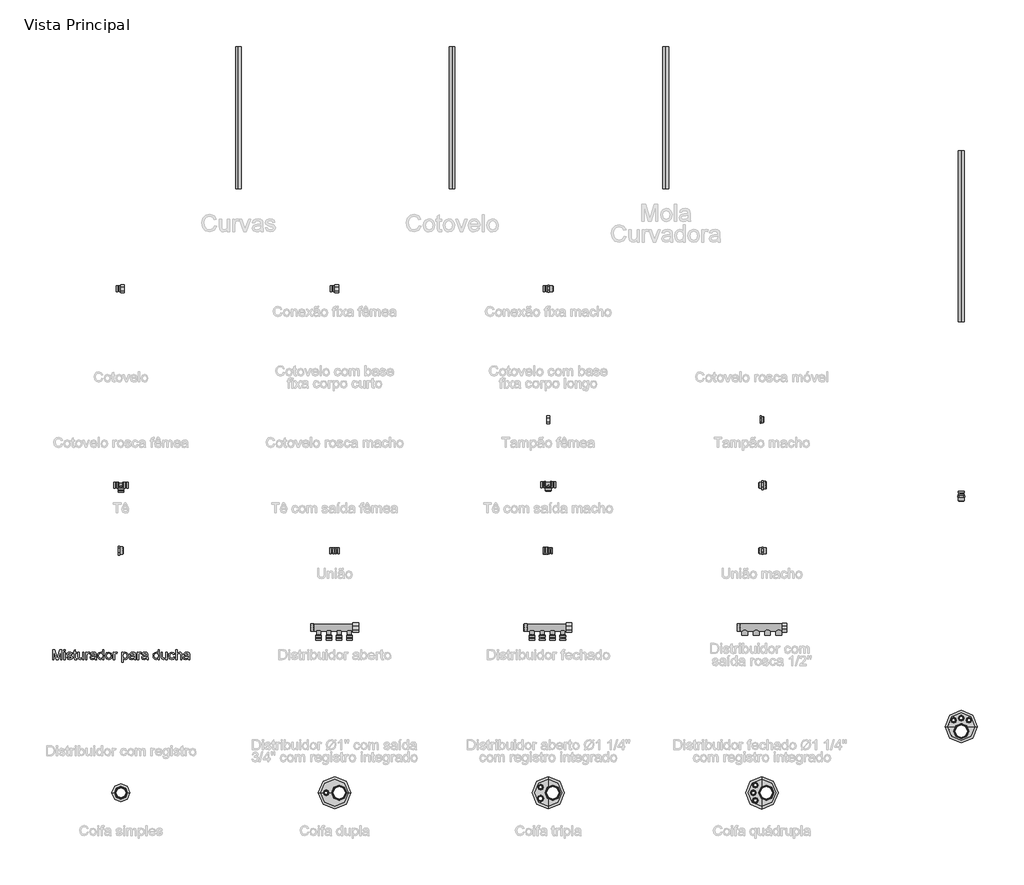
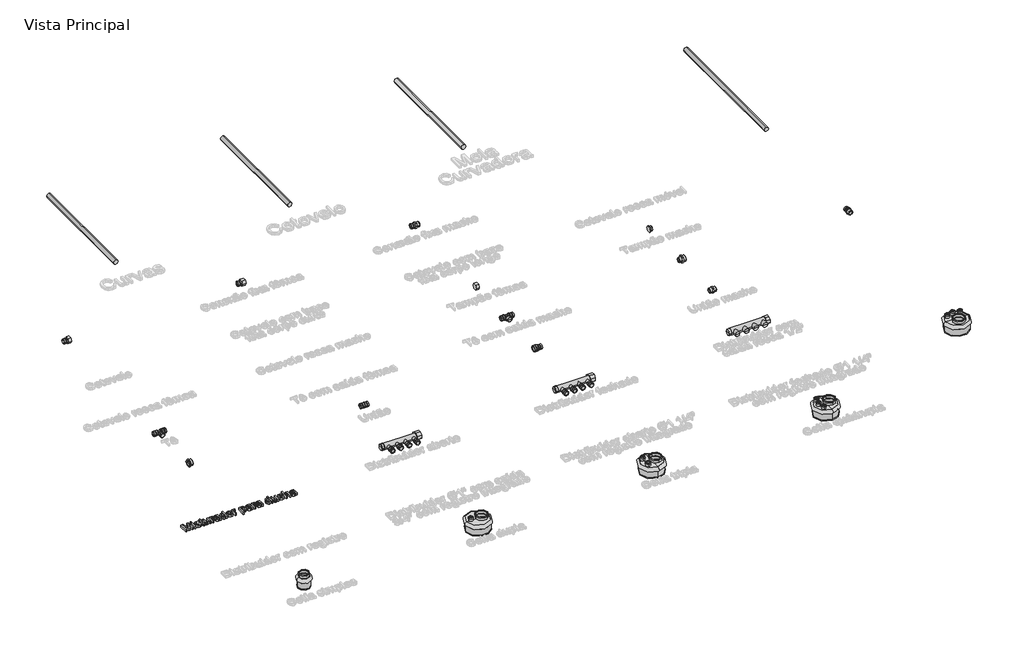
# One storey, part 1 of 12: 16 pipe fittings, 5 valves, 4 pipe segments, 1 proxy.
"""IFC4 building model written with IfcOpenShell, lengths in millimetres."""

from ifc_helpers import new_model, si_unit, point, frame, frame_2d, origin, origin_with_axes, place, context, project, spatial, polyline, circle_curve, trimmed, segment, composite_curve, outline, extrude, transform, mapped, element, save
from components import pipe_fitting_5259ab72, pipe_fitting_8e967877, pipe_fitting_f7807440, pipe_fitting_d305088d, pipe_fitting_e5ea418e, pipe_fitting_7b5d8ced, pipe_fitting_8c4c539a, pipe_fitting_f05f0313, pipe_fitting_5bf43b76, pipe_fitting_acc86c9e, pipe_fitting_7faf6eb1, pipe_fitting_00310f9c, pipe_fitting_6ace6138, pipe_fitting_a693b1bf, pipe_fitting_cd5acd92, valve_a015ffae, valve_1405c498, valve_129e3b03, valve_a71acad6

model = new_model("IFC4")

# Units and contexts
model_context = context("Model", 3, world=origin())
ifc_project = project(units=[si_unit("LENGTHUNIT", "METRE", prefix="MILLI")], contexts=[model_context])

# Site, building, storey
site = spatial("IfcSite", under=ifc_project)
building = spatial("IfcBuilding", under=site)
storey = spatial("IfcBuildingStorey", under=building, Name="Vista Principal", Elevation=0.0)

# Proxy
placement = place(None, origin())
element("IfcBuildingElementProxy", 1, Name="Legenda", ObjectType="Legenda", at=placement, inside=storey, context=model_context, shape_type="SweptSolid", body=[
    extrude(outline(polyline([(-1320.6631168, -1231.7668427), (-1320.6631168, -1196.6071341), (-1313.1006892, -1196.6071341), (-1305.9073699, -1221.3888916), (-1304.4566886, -1226.5649913), (-1302.8858325, -1220.9596959), (-1295.812688, -1196.6071341), (-1288.2502604, -1196.6071341), (-1288.2502604, -1231.7668427), (-1292.645224, -1231.7668427), (-1292.645224, -1201.0020977), (-1301.4780707, -1231.7668427), (-1307.4353065, -1231.7668427), (-1316.2681532, -1201.0020977), (-1316.2681532, -1231.7668427), (-1320.6631168, -1231.7668427)])), origin_with_axes(), (0.0, 0.0, 1.0), 10.0),
    extrude(outline(polyline([(-1281.1084446, -1231.7668427), (-1281.1084446, -1205.9464317), (-1276.7134811, -1205.9464317), (-1276.7134811, -1231.7668427), (-1281.1084446, -1231.7668427)])), origin_with_axes(), (0.0, 0.0, 1.0), 10.0),
    extrude(outline(polyline([(-1281.1084446, -1201.0020977), (-1281.1084446, -1196.6071341), (-1276.7134811, -1196.6071341), (-1276.7134811, -1201.0020977), (-1281.1084446, -1201.0020977)])), origin_with_axes(), (0.0, 0.0, 1.0), 10.0),
    extrude(outline(polyline([(-1271.769147, -1224.0756564), (-1267.3741835, -1223.526286), (-1265.339796, -1226.788173), (-1260.6787312, -1227.9212496), (-1256.1979285, -1226.8825961), (-1254.7386632, -1224.4447647), (-1256.2065124, -1222.4704647), (-1260.7302346, -1221.2172133), (-1267.3484317, -1219.0669431), (-1270.2369185, -1216.5561485), (-1271.2197766, -1213.0109923), (-1270.4300566, -1209.7362294), (-1268.2754944, -1207.2340187), (-1265.4814306, -1205.9335558), (-1261.7002168, -1205.3970613), (-1256.3524389, -1206.2597445), (-1252.9532093, -1208.5945689), (-1251.4424405, -1212.5388771), (-1255.8374041, -1213.0882475), (-1257.4898074, -1210.663292), (-1261.3568603, -1209.7920248), (-1265.5629778, -1210.6246644), (-1266.824813, -1212.5646288), (-1264.6616669, -1214.8136141), (-1260.8761612, -1215.7492606), (-1254.4253504, -1217.8179837), (-1251.4295647, -1220.161392), (-1250.3436996, -1223.9812334), (-1251.6184108, -1228.1873509), (-1255.2966176, -1231.238932), (-1260.7388186, -1232.3162131), (-1268.4042531, -1230.2389061), (-1271.769147, -1224.0756564)])), origin_with_axes(), (0.0, 0.0, 1.0), 10.0),
    extrude(outline(polyline([(-1236.060068, -1228.1015117), (-1235.5106976, -1231.8956014), (-1238.7983364, -1232.3162131), (-1242.4808351, -1231.5865805), (-1244.3177926, -1229.6723679), (-1244.8499952, -1224.6851143), (-1244.8499952, -1210.3413953), (-1248.1462179, -1210.3413953), (-1248.1462179, -1205.9464317), (-1244.8499952, -1205.9464317), (-1244.8499952, -1199.6715911), (-1240.4550316, -1197.0878333), (-1240.4550316, -1205.9464317), (-1236.060068, -1205.9464317), (-1236.060068, -1210.3413953), (-1240.4550316, -1210.3413953), (-1240.4550316, -1224.5563556), (-1240.223266, -1226.8225087), (-1236.060068, -1228.1015117)])), origin_with_axes(), (0.0, 0.0, 1.0), 10.0),
    extrude(outline(polyline([(-1215.1839911, -1231.7668427), (-1215.1839911, -1227.3289595), (-1223.1155269, -1232.3162131), (-1227.2486811, -1231.440654), (-1230.0985403, -1229.2431722), (-1231.4075871, -1226.0070369), (-1231.6651045, -1221.9210942), (-1231.6651045, -1205.9464317), (-1227.2701409, -1205.9464317), (-1227.2701409, -1219.8523711), (-1227.0040396, -1224.3331738), (-1225.2657972, -1226.9641432), (-1221.9910343, -1227.9212496), (-1218.3214114, -1226.9426835), (-1215.8964559, -1224.2773784), (-1215.1839911, -1219.3802559), (-1215.1839911, -1205.9464317), (-1210.7890275, -1205.9464317), (-1210.7890275, -1231.7668427), (-1215.1839911, -1231.7668427)])), origin_with_axes(), (0.0, 0.0, 1.0), 10.0),
    extrude(outline(polyline([(-1204.7459526, -1231.7668427), (-1204.7459526, -1205.9464317), (-1200.9003595, -1205.9464317), (-1200.9003595, -1209.7662731), (-1198.1706751, -1206.2468687), (-1195.4238229, -1205.3970613), (-1191.0116915, -1206.7533196), (-1192.4795406, -1210.6933357), (-1195.5697494, -1209.7920248), (-1198.0547923, -1210.6590001), (-1199.6385243, -1213.0624958), (-1200.3509891, -1218.1956759), (-1200.3509891, -1231.7668427), (-1204.7459526, -1231.7668427)])), origin_with_axes(), (0.0, 0.0, 1.0), 10.0),
    extrude(outline(polyline([(-1171.7837259, -1228.47062), (-1176.0456388, -1231.4492379), (-1180.7539152, -1232.3162131), (-1187.1360546, -1230.2303222), (-1189.3635801, -1224.8997121), (-1188.5223566, -1221.4232273), (-1186.311999, -1218.8995568), (-1183.2346661, -1217.4574593), (-1179.4319925, -1216.796498), (-1171.8094776, -1215.2857293), (-1172.9940576, -1211.062444), (-1177.8525525, -1209.7920248), (-1182.2990195, -1210.6375403), (-1184.4192461, -1213.637618), (-1188.8142097, -1213.0882475), (-1186.9128729, -1208.7962909), (-1183.0844476, -1206.2812043), (-1177.2860142, -1205.3970613), (-1171.9596961, -1206.1781974), (-1168.9510345, -1208.1396215), (-1167.6033601, -1211.1225314), (-1167.3887623, -1214.9681245), (-1167.3887623, -1220.4360772), (-1167.1655805, -1228.071468), (-1166.2900214, -1231.7668427), (-1170.684985, -1231.7668427), (-1171.7837259, -1228.47062)]), holes=[polyline([(-1171.7966017, -1220.3030266), (-1178.8740382, -1221.0283672), (-1182.6552519, -1221.740832), (-1184.3677426, -1222.8996603), (-1184.9686166, -1224.5906912), (-1183.6595698, -1226.9684352), (-1179.8182686, -1227.9212496), (-1175.3718016, -1226.8697202), (-1172.5047746, -1224.3245899), (-1171.7966017, -1220.3030266)])]), origin_with_axes(), (0.0, 0.0, 1.0), 10.0),
    extrude(outline(polyline([(-1145.4139444, -1231.7668427), (-1145.4139444, -1227.6208126), (-1152.3411624, -1232.3162131), (-1157.7833634, -1230.6165983), (-1161.6289565, -1225.8739863), (-1162.9937987, -1218.8823889), (-1161.7362554, -1211.8864997), (-1157.9679175, -1207.0709243), (-1152.3583302, -1205.3970613), (-1148.3067232, -1206.5945172), (-1145.4139444, -1209.7061857), (-1145.4139444, -1196.6071341), (-1141.0189809, -1196.6071341), (-1141.0189809, -1231.7668427), (-1145.4139444, -1231.7668427)]), holes=[polyline([(-1158.5988351, -1218.8652211), (-1156.6159512, -1225.6679723), (-1151.9377185, -1227.9212496), (-1147.3152812, -1225.7709793), (-1145.4139444, -1219.1999937), (-1147.3496169, -1212.0667618), (-1152.1179807, -1209.7920248), (-1156.7447099, -1211.9766308), (-1158.5988351, -1218.8652211)])]), origin_with_axes(), (0.0, 0.0, 1.0), 10.0),
    extrude(outline(polyline([(-1135.5252764, -1218.8566372), (-1131.7226028, -1208.2555044), (-1123.9799131, -1205.3970613), (-1115.6749771, -1208.8778381), (-1112.4517177, -1218.4961128), (-1113.8766473, -1226.3160578), (-1118.0269693, -1230.7410651), (-1123.9799131, -1232.3162131), (-1132.3363526, -1228.8483122), (-1135.5252764, -1218.8566372)]), holes=[polyline([(-1131.1303128, -1218.8480533), (-1129.0959254, -1225.6593884), (-1123.9799131, -1227.9212496), (-1118.8810687, -1225.6465126), (-1116.8466812, -1218.7107107), (-1118.8939445, -1212.053886), (-1123.9799131, -1209.7920248), (-1129.0959254, -1212.0453021), (-1131.1303128, -1218.8480533)])]), origin_with_axes(), (0.0, 0.0, 1.0), 10.0),
    extrude(outline(polyline([(-1107.5073837, -1231.7668427), (-1107.5073837, -1205.9464317), (-1103.6617905, -1205.9464317), (-1103.6617905, -1209.7662731), (-1100.9321061, -1206.2468687), (-1098.1852539, -1205.3970613), (-1093.7731225, -1206.7533196), (-1095.2409717, -1210.6933357), (-1098.3311804, -1209.7920248), (-1100.8162233, -1210.6590001), (-1102.3999553, -1213.0624958), (-1103.1124201, -1218.1956759), (-1103.1124201, -1231.7668427), (-1107.5073837, -1231.7668427)])), origin_with_axes(), (0.0, 0.0, 1.0), 10.0),
    extrude(outline(polyline([(-1077.2920091, -1241.6555107), (-1077.2920091, -1205.9464317), (-1072.8970455, -1205.9464317), (-1072.8970455, -1210.2555562), (-1069.8583403, -1206.611685), (-1065.7552297, -1205.3970613), (-1060.1842701, -1207.0966761), (-1056.5446909, -1211.8864997), (-1055.3171913, -1218.6592072), (-1056.7034933, -1225.7795632), (-1060.7293486, -1230.6294742), (-1066.2874324, -1232.3162131), (-1070.1115657, -1231.1874285), (-1072.8970455, -1228.3332774), (-1072.8970455, -1241.6555107), (-1077.2920091, -1241.6555107)]), holes=[polyline([(-1072.8970455, -1219.0626511), (-1070.9957088, -1225.7581034), (-1066.3818554, -1227.9212496), (-1061.673579, -1225.6808482), (-1059.7121548, -1218.7364624), (-1061.6263675, -1212.0238423), (-1066.2015932, -1209.7920248), (-1070.8669501, -1212.1654768), (-1072.8970455, -1219.0626511)])]), origin_with_axes(), (0.0, 0.0, 1.0), 10.0),
    extrude(outline(polyline([(-1033.8917439, -1228.47062), (-1038.1536568, -1231.4492379), (-1042.8619332, -1232.3162131), (-1049.2440727, -1230.2303222), (-1051.4715981, -1224.8997121), (-1050.6303747, -1221.4232273), (-1048.420017, -1218.8995568), (-1045.3426841, -1217.4574593), (-1041.5400106, -1216.796498), (-1033.9174956, -1215.2857293), (-1035.1020756, -1211.062444), (-1039.9605705, -1209.7920248), (-1044.4070376, -1210.6375403), (-1046.5272641, -1213.637618), (-1050.9222277, -1213.0882475), (-1049.0208909, -1208.7962909), (-1045.1924656, -1206.2812043), (-1039.3940322, -1205.3970613), (-1034.0677141, -1206.1781974), (-1031.0590525, -1208.1396215), (-1029.7113781, -1211.1225314), (-1029.4967803, -1214.9681245), (-1029.4967803, -1220.4360772), (-1029.2735986, -1228.071468), (-1028.3980394, -1231.7668427), (-1032.793003, -1231.7668427), (-1033.8917439, -1228.47062)]), holes=[polyline([(-1033.9046197, -1220.3030266), (-1040.9820562, -1221.0283672), (-1044.76327, -1221.740832), (-1046.4757607, -1222.8996603), (-1047.0766346, -1224.5906912), (-1045.7675878, -1226.9684352), (-1041.9262866, -1227.9212496), (-1037.4798196, -1226.8697202), (-1034.6127926, -1224.3245899), (-1033.9046197, -1220.3030266)])]), origin_with_axes(), (0.0, 0.0, 1.0), 10.0),
    extrude(outline(polyline([(-1023.4537054, -1231.7668427), (-1023.4537054, -1205.9464317), (-1019.6081123, -1205.9464317), (-1019.6081123, -1209.7662731), (-1016.8784279, -1206.2468687), (-1014.1315756, -1205.3970613), (-1009.7194442, -1206.7533196), (-1011.1872934, -1210.6933357), (-1014.2775022, -1209.7920248), (-1016.762545, -1210.6590001), (-1018.346277, -1213.0624958), (-1019.0587418, -1218.1956759), (-1019.0587418, -1231.7668427), (-1023.4537054, -1231.7668427)])), origin_with_axes(), (0.0, 0.0, 1.0), 10.0),
    extrude(outline(polyline([(-990.4914786, -1228.47062), (-994.7533915, -1231.4492379), (-999.4616679, -1232.3162131), (-1005.8438074, -1230.2303222), (-1008.0713329, -1224.8997121), (-1007.2301094, -1221.4232273), (-1005.0197518, -1218.8995568), (-1001.9424189, -1217.4574593), (-998.1397453, -1216.796498), (-990.5172304, -1215.2857293), (-991.7018104, -1211.062444), (-996.5603053, -1209.7920248), (-1001.0067723, -1210.6375403), (-1003.1269989, -1213.637618), (-1007.5219625, -1213.0882475), (-1005.6206257, -1208.7962909), (-1001.7922004, -1206.2812043), (-995.993767, -1205.3970613), (-990.6674488, -1206.1781974), (-987.6587873, -1208.1396215), (-986.3111129, -1211.1225314), (-986.0965151, -1214.9681245), (-986.0965151, -1220.4360772), (-985.8733333, -1228.071468), (-984.9977742, -1231.7668427), (-989.3927377, -1231.7668427), (-990.4914786, -1228.47062)]), holes=[polyline([(-990.5043545, -1220.3030266), (-997.5817909, -1221.0283672), (-1001.3630047, -1221.740832), (-1003.0754954, -1222.8996603), (-1003.6763693, -1224.5906912), (-1002.3673226, -1226.9684352), (-998.5260214, -1227.9212496), (-994.0795544, -1226.8697202), (-991.2125273, -1224.3245899), (-990.5043545, -1220.3030266)])]), origin_with_axes(), (0.0, 0.0, 1.0), 10.0),
    extrude(outline(polyline([(-950.3874361, -1231.7668427), (-950.3874361, -1227.6208126), (-957.314654, -1232.3162131), (-962.756855, -1230.6165983), (-966.6024481, -1225.8739863), (-967.9672903, -1218.8823889), (-966.7097471, -1211.8864997), (-962.9414091, -1207.0709243), (-957.3318219, -1205.3970613), (-953.2802148, -1206.5945172), (-950.3874361, -1209.7061857), (-950.3874361, -1196.6071341), (-945.9924725, -1196.6071341), (-945.9924725, -1231.7668427), (-950.3874361, -1231.7668427)]), holes=[polyline([(-963.5723268, -1218.8652211), (-961.5894428, -1225.6679723), (-956.9112101, -1227.9212496), (-952.2887728, -1225.7709793), (-950.3874361, -1219.1999937), (-952.3231085, -1212.0667618), (-957.0914723, -1209.7920248), (-961.7182015, -1211.9766308), (-963.5723268, -1218.8652211)])]), origin_with_axes(), (0.0, 0.0, 1.0), 10.0),
    extrude(outline(polyline([(-922.9189138, -1231.7668427), (-922.9189138, -1227.3289595), (-930.8504496, -1232.3162131), (-934.9836038, -1231.440654), (-937.833463, -1229.2431722), (-939.1425097, -1226.0070369), (-939.4000271, -1221.9210942), (-939.4000271, -1205.9464317), (-935.0050636, -1205.9464317), (-935.0050636, -1219.8523711), (-934.7389623, -1224.3331738), (-933.0007198, -1226.9641432), (-929.7259569, -1227.9212496), (-926.056334, -1226.9426835), (-923.6313786, -1224.2773784), (-922.9189138, -1219.3802559), (-922.9189138, -1205.9464317), (-918.5239502, -1205.9464317), (-918.5239502, -1231.7668427), (-922.9189138, -1231.7668427)])), origin_with_axes(), (0.0, 0.0, 1.0), 10.0),
    extrude(outline(polyline([(-895.9997619, -1222.4275451), (-891.6047983, -1222.9769155), (-895.1327867, -1229.8397542), (-902.1029242, -1232.3162131), (-910.433612, -1228.8611881), (-913.5796162, -1218.9510602), (-912.2362338, -1211.650442), (-908.1417071, -1206.9593335), (-902.1630116, -1205.3970613), (-895.4804351, -1207.5430396), (-892.1541688, -1213.637618), (-896.5491323, -1214.1869884), (-898.5878117, -1210.8950577), (-902.1286759, -1209.7920248), (-907.2232284, -1211.9637549), (-909.1846526, -1218.8308855), (-907.266148, -1225.7623954), (-902.2488507, -1227.9212496), (-898.1071126, -1226.5735752), (-895.9997619, -1222.4275451)])), origin_with_axes(), (0.0, 0.0, 1.0), 10.0),
    extrude(outline(polyline([(-887.7592052, -1231.7668427), (-887.7592052, -1196.6071341), (-883.3642416, -1196.6071341), (-883.3642416, -1209.5345074), (-875.715975, -1205.3970613), (-870.7802249, -1206.5258459), (-867.7844391, -1209.6460983), (-866.8831282, -1215.4230719), (-866.8831282, -1231.7668427), (-871.2780918, -1231.7668427), (-871.2780918, -1215.8780193), (-872.6772697, -1211.2427062), (-876.6430376, -1209.7920248), (-880.2439892, -1210.7705909), (-882.6474849, -1213.4230201), (-883.3642416, -1218.0497494), (-883.3642416, -1231.7668427), (-887.7592052, -1231.7668427)])), origin_with_axes(), (0.0, 0.0, 1.0), 10.0),
    extrude(outline(polyline([(-844.35894, -1228.47062), (-848.6208529, -1231.4492379), (-853.3291293, -1232.3162131), (-859.7112688, -1230.2303222), (-861.9387942, -1224.8997121), (-861.0975707, -1221.4232273), (-858.8872131, -1218.8995568), (-855.8098802, -1217.4574593), (-852.0072066, -1216.796498), (-844.3846917, -1215.2857293), (-845.5692717, -1211.062444), (-850.4277666, -1209.7920248), (-854.8742337, -1210.6375403), (-856.9944602, -1213.637618), (-861.3894238, -1213.0882475), (-859.488087, -1208.7962909), (-855.6596617, -1206.2812043), (-849.8612283, -1205.3970613), (-844.5349102, -1206.1781974), (-841.5262486, -1208.1396215), (-840.1785742, -1211.1225314), (-839.9639764, -1214.9681245), (-839.9639764, -1220.4360772), (-839.7407946, -1228.071468), (-838.8652355, -1231.7668427), (-843.2601991, -1231.7668427), (-844.35894, -1228.47062)]), holes=[polyline([(-844.3718158, -1220.3030266), (-851.4492523, -1221.0283672), (-855.2304661, -1221.740832), (-856.9429567, -1222.8996603), (-857.5438307, -1224.5906912), (-856.2347839, -1226.9684352), (-852.3934827, -1227.9212496), (-847.9470157, -1226.8697202), (-845.0799887, -1224.3245899), (-844.3718158, -1220.3030266)])]), origin_with_axes(), (0.0, 0.0, 1.0), 10.0),
])

# Pipe fittings
pipe_fitting_shape = pipe_fitting_5259ab72(model_context)
element("IfcPipeFitting", 2, ObjectType="Astra - Distribuidor com Saída Rosca ½ - COL : Astra - Distribuidor com Saída Rosca ½ - COL", at=placement, inside=storey, context=model_context, shape_type="MappedRepresentation", body=[
    mapped(pipe_fitting_shape, transform((1169.137083, -1119.5168427, 0.0), x_axis=(1.0, 0.0, 0.0), y_axis=(0.0, 1.0, 0.0), z_axis=(0.0, 0.0, 1.0))),
])
pipe_fitting_2_shape = pipe_fitting_8e967877(model_context)
element("IfcPipeFitting", 3, ObjectType="Astra - União para Tubos - KMU : Astra - União para Tubos - KMU", at=placement, inside=storey, context=model_context, shape_type="MappedRepresentation", body=[
    mapped(pipe_fitting_2_shape, transform((-330.862917, -849.5168427, 0.0), x_axis=(1.0, 0.0, 0.0), y_axis=(0.0, 1.0, 0.0), z_axis=(0.0, 0.0, 1.0))),
])
pipe_fitting_3_shape = pipe_fitting_f7807440(model_context)
element("IfcPipeFitting", 4, ObjectType="Astra - Distribuidor Fechado - DST : Astra - Distribuidor Fechado - DST", at=placement, inside=storey, context=model_context, shape_type="MappedRepresentation", body=[
    mapped(pipe_fitting_3_shape, transform((418.162083, -1119.5168427, 0.0), x_axis=(1.0, 0.0, 0.0), y_axis=(0.0, 1.0, 0.0), z_axis=(0.0, 0.0, 1.0))),
])
pipe_fitting_4_shape = pipe_fitting_d305088d(model_context)
element("IfcPipeFitting", 5, ObjectType="Astra - Tampão Macho para Distribuidor - TAPM : Astra - Tampão Macho para Distribuidor - TAPM", at=placement, inside=storey, context=model_context, shape_type="MappedRepresentation", body=[
    mapped(pipe_fitting_4_shape, transform((1169.137083, -389.5168427, 0.0), x_axis=(1.0, 0.0, 0.0), y_axis=(0.0, 1.0, 0.0), z_axis=(0.0, 0.0, 1.0))),
])
pipe_fitting_5_shape = pipe_fitting_e5ea418e(model_context)
element("IfcPipeFitting", 6, ObjectType="Astra - Tê - KT : Astra - Tê - KT", at=placement, inside=storey, context=model_context, shape_type="MappedRepresentation", body=[
    mapped(pipe_fitting_5_shape, transform((-1080.862917, -619.5168427, 0.0), x_axis=(1.0, 0.0, 0.0), y_axis=(0.0, 1.0, 0.0), z_axis=(0.0, 0.0, 1.0))),
])
pipe_fitting_6_shape = pipe_fitting_7b5d8ced(model_context)
element("IfcPipeFitting", 7, ObjectType="Astra - Conexão Fixa Fêmea - KRH : Astra - Conexão Fixa Fêmea - KRH", at=placement, inside=storey, context=model_context, shape_type="MappedRepresentation", body=[
    mapped(pipe_fitting_6_shape, transform((-330.862917, 70.4831573, 0.0), x_axis=(1.0, 0.0, 0.0), y_axis=(0.0, 1.0, 0.0), z_axis=(0.0, 0.0, 1.0))),
])
pipe_fitting_7_shape = pipe_fitting_8c4c539a(model_context)
element("IfcPipeFitting", 8, ObjectType="Astra - Conexão Fixa Macho - KRC : Astra - Conexão Fixa Macho - KRC", at=placement, inside=storey, context=model_context, shape_type="MappedRepresentation", body=[
    mapped(pipe_fitting_7_shape, transform((417.337083, 70.4831573, 0.0), x_axis=(1.0, 0.0, 0.0), y_axis=(0.0, 1.0, 0.0), z_axis=(0.0, 0.0, 1.0))),
])
element("IfcPipeFitting", 9, ObjectType="Astra - Conexão Fixa Macho - KRC : Astra - Conexão Fixa Macho - KRC", at=placement, inside=storey, context=model_context, shape_type="MappedRepresentation", body=[
    mapped(pipe_fitting_7_shape, transform((1869.137083, -656.0829782, 0.0), x_axis=(0.0, -1.0, 0.0), y_axis=(1.0, 0.0, 0.0), z_axis=(0.0, 0.0, 1.0))),
])
pipe_fitting_8_shape = pipe_fitting_f05f0313(model_context)
element("IfcPipeFitting", 10, ObjectType="Astra - Conexão Móvel - KRM : Astra - Conexão Móvel - KRM", at=placement, inside=storey, context=model_context, shape_type="MappedRepresentation", body=[
    mapped(pipe_fitting_8_shape, transform((-1081.862917, 70.4831573, 0.0), x_axis=(1.0, 0.0, 0.0), y_axis=(0.0, 1.0, 0.0), z_axis=(0.0, 0.0, 1.0))),
])
pipe_fitting_9_shape = pipe_fitting_5bf43b76(model_context)
element("IfcPipeFitting", 11, ObjectType="Astra - Distribuidor Aberto - DSL : Astra - Distribuidor Aberto - DSL", at=placement, inside=storey, context=model_context, shape_type="MappedRepresentation", body=[
    mapped(pipe_fitting_9_shape, transform((-330.862917, -1119.5168427, 0.0), x_axis=(1.0, 0.0, 0.0), y_axis=(0.0, 1.0, 0.0), z_axis=(0.0, 0.0, 1.0))),
])
pipe_fitting_10_shape = pipe_fitting_acc86c9e(model_context)
element("IfcPipeFitting", 12, ObjectType="Astra - Tampão Fêmea para Distribuidor - TAPH : Astra - Tampão Fêmea para Distribuidor - TAPH", at=placement, inside=storey, context=model_context, shape_type="MappedRepresentation", body=[
    mapped(pipe_fitting_10_shape, transform((419.137083, -389.5168427, 0.0), x_axis=(1.0, 0.0, 0.0), y_axis=(0.0, 1.0, 0.0), z_axis=(0.0, 0.0, 1.0))),
])
pipe_fitting_11_shape = pipe_fitting_7faf6eb1(model_context)
element("IfcPipeFitting", 13, ObjectType="Astra - Tê com Saída Macho - KSM e KTM : Astra - Tê com Saída Macho - KSM e KTM", at=placement, inside=storey, context=model_context, shape_type="MappedRepresentation", body=[
    mapped(pipe_fitting_11_shape, transform((419.137083, -617.7168427, 0.0), x_axis=(1.0, 0.0, 0.0), y_axis=(0.0, 1.0, 0.0), z_axis=(0.0, 0.0, 1.0))),
])
pipe_fitting_12_shape = pipe_fitting_00310f9c(model_context)
element("IfcPipeFitting", 14, ObjectType="Astra - União para Tubos Reduzidos - KMR : Astra - União para Tubos Reduzidos - KMR", at=placement, inside=storey, context=model_context, shape_type="MappedRepresentation", body=[
    mapped(pipe_fitting_12_shape, transform((417.637083, -849.5168427, 0.0), x_axis=(1.0, 0.0, 0.0), y_axis=(0.0, 1.0, 0.0), z_axis=(0.0, 0.0, 1.0))),
])
pipe_fitting_13_shape = pipe_fitting_6ace6138(model_context)
element("IfcPipeFitting", 15, ObjectType="Astra - União Macho - MA : Astra - União Macho - MA", at=placement, inside=storey, context=model_context, shape_type="MappedRepresentation", body=[
    mapped(pipe_fitting_13_shape, transform((1169.137083, -849.5168427, 0.0), x_axis=(1.0, 0.0, 0.0), y_axis=(0.0, 1.0, 0.0), z_axis=(0.0, 0.0, 1.0))),
])
pipe_fitting_14_shape = pipe_fitting_a693b1bf(model_context)
element("IfcPipeFitting", 16, ObjectType="Astra - Redução Hexagonal - RH : Astra - Redução Hexagonal - RH", at=placement, inside=storey, context=model_context, shape_type="MappedRepresentation", body=[
    mapped(pipe_fitting_14_shape, transform((-1089.5774232, -849.5168427, 0.0), x_axis=(1.0, 0.0, 0.0), y_axis=(0.0, 1.0, 0.0), z_axis=(0.0, 0.0, 1.0))),
])
pipe_fitting_15_shape = pipe_fitting_cd5acd92(model_context)
element("IfcPipeFitting", 17, ObjectType="Astra - Redução Macho - MR : Astra - Redução Macho - MR", at=placement, inside=storey, context=model_context, shape_type="MappedRepresentation", body=[
    mapped(pipe_fitting_15_shape, transform((1169.137083, -619.5168427, 0.0), x_axis=(1.0, 0.0, 0.0), y_axis=(0.0, 1.0, 0.0), z_axis=(0.0, 0.0, 1.0))),
])

# Pipe segments
element("IfcPipeSegment", 18, ObjectType="Astra - PEX - Curvas", at=placement, inside=storey, context=model_context, shape_type="SweptSolid", body=[
    extrude(outline(composite_curve([segment(trimmed(circle_curve(frame_2d((0.0, -668.2310415)), 10.0), [point((0.0, -678.2310415))], [point((-10.0, -668.2310415))], False, "CARTESIAN"), True, "CONTINUOUS"), segment(trimmed(circle_curve(frame_2d((0.0, -668.2310415)), 10.0), [point((-10.0, -668.2310415))], [point((0.0, -658.2310415))], False, "CARTESIAN"), True, "CONTINUOUS"), segment(trimmed(circle_curve(frame_2d((0.0, -668.2310415)), 10.0), [point((0.0, -658.2310415))], [point((10.0, -668.2310415))], False, "CARTESIAN"), True, "CONTINUOUS"), segment(trimmed(circle_curve(frame_2d((0.0, -668.2310415)), 10.0), [point((10.0, -668.2310415))], [point((0.0, -678.2310415))], False, "CARTESIAN"), True, "CONTINUOUS")], self_intersect=False)), frame((0.0, 420.4831573, 0.0), z_axis=(0.0, 1.0, 0.0), x_axis=(0.0, 0.0, 1.0)), (0.0, 0.0, 1.0), 500.0),
])
element("IfcPipeSegment", 19, ObjectType="Astra - PEX - Cotovelo", at=placement, inside=storey, context=model_context, shape_type="SweptSolid", body=[
    extrude(outline(composite_curve([segment(trimmed(circle_curve(frame_2d((0.0, 81.7689585)), 10.0), [point((0.0, 71.7689585))], [point((-10.0, 81.7689585))], False, "CARTESIAN"), True, "CONTINUOUS"), segment(trimmed(circle_curve(frame_2d((0.0, 81.7689585)), 10.0), [point((-10.0, 81.7689585))], [point((0.0, 91.7689585))], False, "CARTESIAN"), True, "CONTINUOUS"), segment(trimmed(circle_curve(frame_2d((0.0, 81.7689585)), 10.0), [point((0.0, 91.7689585))], [point((10.0, 81.7689585))], False, "CARTESIAN"), True, "CONTINUOUS"), segment(trimmed(circle_curve(frame_2d((0.0, 81.7689585)), 10.0), [point((10.0, 81.7689585))], [point((0.0, 71.7689585))], False, "CARTESIAN"), True, "CONTINUOUS")], self_intersect=False)), frame((0.0, 420.4831573, 0.0), z_axis=(0.0, 1.0, 0.0), x_axis=(0.0, 0.0, 1.0)), (0.0, 0.0, 1.0), 500.0),
])
element("IfcPipeSegment", 20, ObjectType="Astra - PEX - Curvas", at=placement, inside=storey, context=model_context, shape_type="SweptSolid", body=[
    extrude(outline(composite_curve([segment(trimmed(circle_curve(frame_2d((0.0, 1869.137083)), 10.0), [point((0.0, 1859.137083))], [point((-10.0, 1869.137083))], False, "CARTESIAN"), True, "CONTINUOUS"), segment(trimmed(circle_curve(frame_2d((0.0, 1869.137083)), 10.0), [point((-10.0, 1869.137083))], [point((0.0, 1879.137083))], False, "CARTESIAN"), True, "CONTINUOUS"), segment(trimmed(circle_curve(frame_2d((0.0, 1869.137083)), 10.0), [point((0.0, 1879.137083))], [point((10.0, 1869.137083))], False, "CARTESIAN"), True, "CONTINUOUS"), segment(trimmed(circle_curve(frame_2d((0.0, 1869.137083)), 10.0), [point((10.0, 1869.137083))], [point((0.0, 1859.137083))], False, "CARTESIAN"), True, "CONTINUOUS")], self_intersect=False)), frame((0.0, -45.5168427, 0.0), z_axis=(0.0, 1.0, 0.0), x_axis=(0.0, 0.0, 1.0)), (0.0, 0.0, 1.0), 600.0),
])
element("IfcPipeSegment", 21, ObjectType="Astra - PEX - Mola Curvadora", at=placement, inside=storey, context=model_context, shape_type="SweptSolid", body=[
    extrude(outline(composite_curve([segment(trimmed(circle_curve(frame_2d((0.0, 831.7689585)), 10.0), [point((0.0, 841.7689585))], [point((10.0, 831.7689585))], False, "CARTESIAN"), True, "CONTINUOUS"), segment(trimmed(circle_curve(frame_2d((0.0, 831.7689585)), 10.0), [point((10.0, 831.7689585))], [point((0.0, 821.7689585))], False, "CARTESIAN"), True, "CONTINUOUS"), segment(trimmed(circle_curve(frame_2d((0.0, 831.7689585)), 10.0), [point((0.0, 821.7689585))], [point((-10.0, 831.7689585))], False, "CARTESIAN"), True, "CONTINUOUS"), segment(trimmed(circle_curve(frame_2d((0.0, 831.7689585)), 10.0), [point((-10.0, 831.7689585))], [point((0.0, 841.7689585))], False, "CARTESIAN"), True, "CONTINUOUS")], self_intersect=False)), frame((0.0, 420.4831573, 0.0), z_axis=(0.0, 1.0, 0.0), x_axis=(0.0, 0.0, 1.0)), (0.0, 0.0, 1.0), 500.0),
])

# Valves
valve_shape = valve_a015ffae(model_context)
element("IfcValve", 22, ObjectType="Astra - Vedante Flexível Simples - CF : Astra - Vedante Flexível Simples - CF", at=placement, inside=storey, context=model_context, shape_type="MappedRepresentation", body=[
    mapped(valve_shape, transform((-1080.862917, -1699.5168427, 0.0), x_axis=(1.0, 0.0, 0.0), y_axis=(0.0, 1.0, 0.0), z_axis=(0.0, 0.0, 1.0))),
])
valve_2_shape = valve_1405c498(model_context)
element("IfcValve", 23, ObjectType="Astra - Vedante Flexível Duplo - CFD : Astra - Vedante Flexível Duplo - CFD", at=placement, inside=storey, context=model_context, shape_type="MappedRepresentation", body=[
    mapped(valve_2_shape, transform((-330.862917, -1699.5168427, 0.0), x_axis=(1.0, 0.0, 0.0), y_axis=(0.0, 1.0, 0.0), z_axis=(0.0, 0.0, 1.0))),
])
valve_3_shape = valve_129e3b03(model_context)
element("IfcValve", 24, ObjectType="Astra - Vedante Flexível Triplo - CFT : Astra - Vedante Flexível Triplo - CFT", at=placement, inside=storey, context=model_context, shape_type="MappedRepresentation", body=[
    mapped(valve_3_shape, transform((419.137083, -1699.5168427, 0.0), x_axis=(0.0, 1.0, 0.0), y_axis=(-1.0, 0.0, 0.0), z_axis=(0.0, 0.0, 1.0))),
])
valve_4_shape = valve_a71acad6(model_context)
element("IfcValve", 25, ObjectType="Astra - Vedante Flexível Quádruplo - CFQ : Astra - Vedante Flexível Quádruplo - CFQ", at=placement, inside=storey, context=model_context, shape_type="MappedRepresentation", body=[
    mapped(valve_4_shape, transform((1169.137083, -1699.5168427, 0.0), x_axis=(0.0, 1.0, 0.0), y_axis=(-1.0, 0.0, 0.0), z_axis=(0.0, 0.0, 1.0))),
])
element("IfcValve", 26, ObjectType="Astra - Vedante Flexível Quádruplo - CFQ : Astra - Vedante Flexível Quádruplo - CFQ", at=placement, inside=storey, context=model_context, shape_type="MappedRepresentation", body=[
    mapped(valve_4_shape, transform((1869.137083, -1467.0239782, 0.0), x_axis=(1.0, 0.0, 0.0), y_axis=(0.0, 1.0, 0.0), z_axis=(0.0, 0.0, 1.0))),
])

save(model, "model.ifc")
